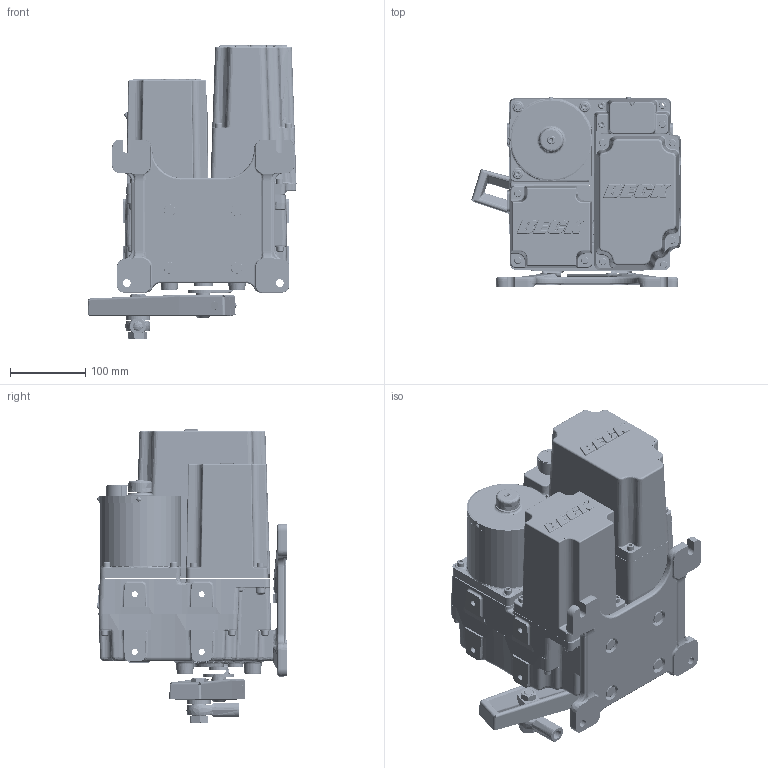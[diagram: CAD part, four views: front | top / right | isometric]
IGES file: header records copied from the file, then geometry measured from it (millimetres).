
Start section: SolidWorks IGES file using analytic representation for surfaces
Global section: file name: N:\Engineering\Product Support\Outline Dimension Models\75-1xx\OD Model Files\18-7500-01_91-05.IGS; native system: SolidWorks 2013; preprocessor: SolidWorks 2013; author: jmack; date: 131202.151052; units: inch
Bounding box: 277.42 x 252.1 x 390.54 mm (x, y, z)
Surface area: 649648.1 mm2 (no closed solid volume)
Topology: 0 solids, 0 shells, 3341 faces, 46818 edges, 46693 vertices
Faces by surface type: bspline 1985, revolution 1356
